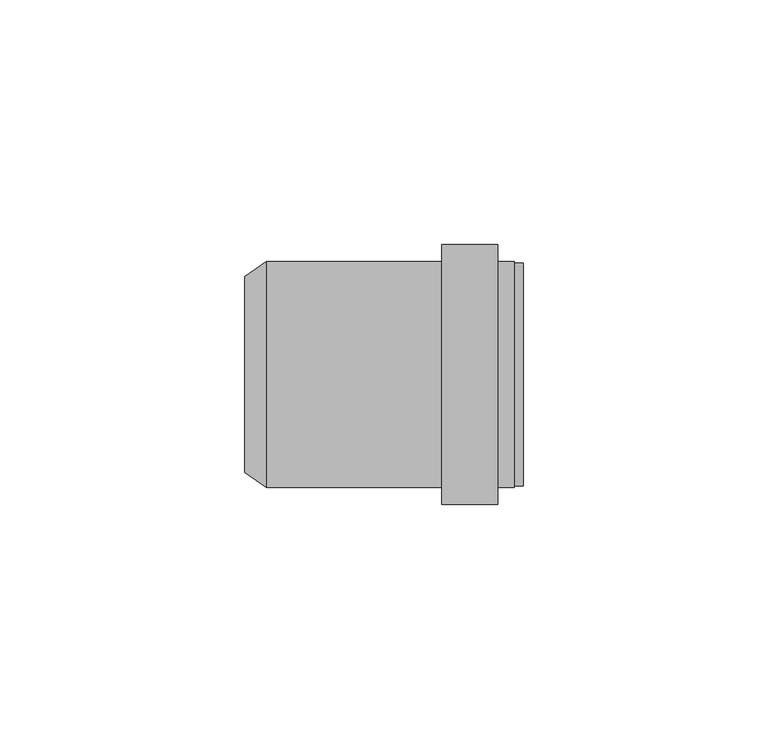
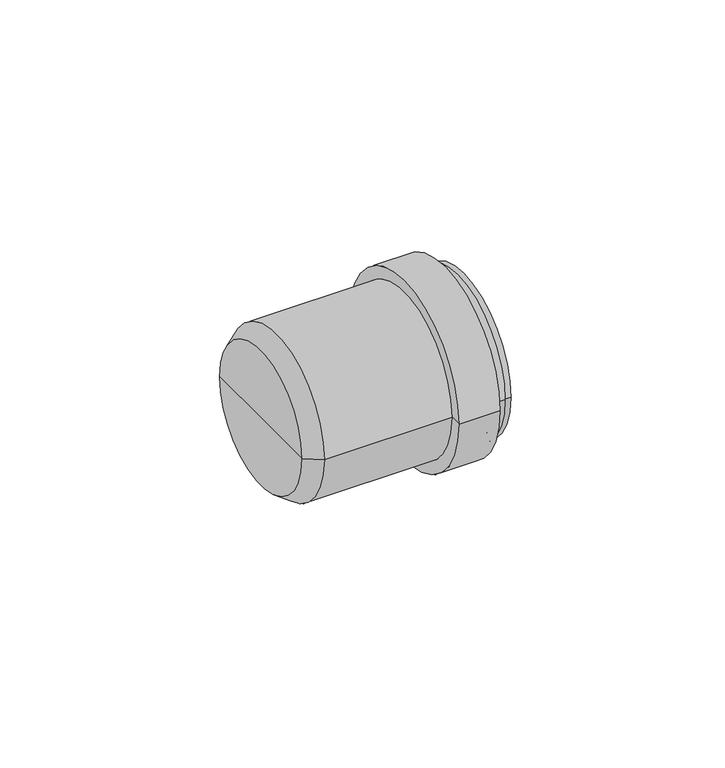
"""IFC4 building model written with IfcOpenShell, lengths in millimetres: pipe fitting geometry, pf_HTM_zatka : pf_HTM_zatka."""

import ifcopenshell
import ifcopenshell.guid

model = None  # the IFC model being written
_history = None  # IfcOwnerHistory: only IFC2X3 demands one
_inside = {}  # id of a spatial element -> (the spatial element, [elements in it])
_under = {}  # id of a project, library or spatial element -> (it, [spatial elements below it])
_declared = {}  # id of a project -> (the project, [libraries it declares])
_typed = {}  # id of a type object -> (the type object, [elements of that type])
_made_of = {}  # id of a material, layer set ... -> (it, [elements and type objects made of it])


def new_model(schema):
    """Start an empty IFC model of exactly this schema.

    Asked for "IFC4X3", IfcOpenShell would pick the latest addendum, in which some entities
    have other attributes; the version numbers below select the first issue.
    IFC2X3 requires an IfcOwnerHistory on every rooted entity: one is made here for all.
    """
    global model, _history
    if schema == "IFC4X3":
        model = ifcopenshell.file(schema_version=(4, 3, 0, 0))
    else:
        model = ifcopenshell.file(schema=schema)
    _inside.clear()
    _under.clear()
    _declared.clear()
    _typed.clear()
    _made_of.clear()
    _history = None
    if model.schema == "IFC2X3":
        org = make("IfcOrganization", Name="unknown")
        user = make(
            "IfcPersonAndOrganization",
            ThePerson=make("IfcPerson", FamilyName="unknown"),
            TheOrganization=org,
        )
        app = make(
            "IfcApplication",
            ApplicationDeveloper=org,
            Version="unknown",
            ApplicationFullName="unknown",
            ApplicationIdentifier="unknown",
        )
        _history = make(
            "IfcOwnerHistory",
            OwningUser=user,
            OwningApplication=app,
            ChangeAction="ADDED",
            CreationDate=0,
        )
    return model


def make(cls, **values):
    """One entity of the class cls with the attributes given. An attribute that is None is left unset."""
    return model.create_entity(
        cls, **{name: value for name, value in values.items() if value is not None}
    )


def rooted(cls, **values):
    """An entity with a GlobalId (a new one), such as an element, a storey or a relation."""
    return make(cls, GlobalId=ifcopenshell.guid.new(), OwnerHistory=_history, **values)


def si_unit(unit_type, name, prefix=None):
    """IfcSIUnit, for example si_unit("LENGTHUNIT", "METRE", prefix="MILLI")."""
    return make("IfcSIUnit", UnitType=unit_type, Prefix=prefix, Name=name)


def assignment(units):
    """IfcUnitAssignment: the units of a project."""
    return None if units is None else make("IfcUnitAssignment", Units=units)


def point(xyz):
    """IfcCartesianPoint."""
    return None if xyz is None else make("IfcCartesianPoint", Coordinates=xyz)


def direction(xyz):
    """IfcDirection."""
    return None if xyz is None else make("IfcDirection", DirectionRatios=xyz)


def frame(location, z_axis=None, x_axis=None):
    """IfcAxis2Placement3D, a coordinate frame: its origin and axes. An axis left out is left unset."""
    return make(
        "IfcAxis2Placement3D",
        Location=point(location),
        Axis=direction(z_axis),
        RefDirection=direction(x_axis),
    )


def origin():
    """The frame at (0, 0, 0) with its axes left unset."""
    return frame((0.0, 0.0, 0.0))


def place(relative_to, where):
    """IfcLocalPlacement: puts the frame where relative to a parent placement (None: the world)."""
    return make(
        "IfcLocalPlacement", PlacementRelTo=relative_to, RelativePlacement=where
    )


def context(
    kind, dimensions, precision=None, world=None, true_north=None, identifier=None
):
    """IfcGeometricRepresentationContext, for example the 3D "Model" context."""
    return make(
        "IfcGeometricRepresentationContext",
        ContextIdentifier=identifier,
        ContextType=kind,
        CoordinateSpaceDimension=dimensions,
        Precision=precision,
        WorldCoordinateSystem=world,
        TrueNorth=true_north,
    )


def project(units=None, contexts=None):
    """IfcProject with its units and contexts."""
    return rooted(
        "IfcProject",
        Name="project",
        RepresentationContexts=contexts,
        UnitsInContext=assignment(units),
    )


def spatial(cls, under=None, at=None, **own):
    """A site, building, storey or space (cls), placed at a placement, below another one or the project."""
    s = rooted(cls, ObjectPlacement=at, **own)
    if under is not None:
        _under.setdefault(under.id(), (under, []))[1].append(s)
    return s


def polyline(points):
    """IfcPolyline through the points."""
    return make("IfcPolyline", Points=[point(p) for p in points])


def circle_curve(where, radius):
    """IfcCircle in the frame where."""
    return make("IfcCircle", Position=where, Radius=radius)


def shape(context_of_items, identifier, shape_type, items):
    """IfcShapeRepresentation: the items that make up one representation, for example the "Body"."""
    return make(
        "IfcShapeRepresentation",
        ContextOfItems=context_of_items,
        RepresentationIdentifier=identifier,
        RepresentationType=shape_type,
        Items=items,
    )


def source(mapping_origin, context_of_items, identifier, shape_type, items):
    """IfcRepresentationMap: a shape defined once, which mapped items show again and again."""
    return make(
        "IfcRepresentationMap",
        MappingOrigin=mapping_origin,
        MappedRepresentation=shape(context_of_items, identifier, shape_type, items),
    )


def transform(
    local_origin,
    x_axis=None,
    y_axis=None,
    z_axis=None,
    scale=None,
    scale2=None,
    scale3=None,
    uniform=True,
):
    """IfcCartesianTransformationOperator3D, or its non-uniform kind. x_axis, y_axis, z_axis: its Axis1, 2, 3."""
    if uniform:
        return make(
            "IfcCartesianTransformationOperator3D",
            Axis1=direction(x_axis),
            Axis2=direction(y_axis),
            LocalOrigin=point(local_origin),
            Scale=scale,
            Axis3=direction(z_axis),
        )
    return make(
        "IfcCartesianTransformationOperator3DnonUniform",
        Axis1=direction(x_axis),
        Axis2=direction(y_axis),
        LocalOrigin=point(local_origin),
        Scale=scale,
        Axis3=direction(z_axis),
        Scale2=scale2,
        Scale3=scale3,
    )


def mapped(mapping_source, mapping_target):
    """IfcMappedItem: shows the shape of a source again, moved by a transform."""
    return make(
        "IfcMappedItem", MappingSource=mapping_source, MappingTarget=mapping_target
    )


def made_of(thing, what):
    """Note that an element or type object is made of a material, layer set ...; save() writes the relation."""
    if what is not None:
        _made_of.setdefault(what.id(), (what, []))[1].append(thing)
    return thing


def element(
    cls,
    number,
    at=None,
    inside=None,
    cuts=None,
    type_object=None,
    material=None,
    context=None,
    identifier="Body",
    shape_type=None,
    held_by="IfcProductDefinitionShape",
    body=None,
    shapes=None,
    **own,
):
    """One element of the class cls, such as IfcWall. Its Tag is "e" and its number.

    at: its placement. inside: the storey or other place that contains it. cuts: it is an
    opening in that element (IfcRelVoidsElement). A single representation is given by context,
    identifier, shape_type and body (its items); several are given by shapes. held_by: the class
    of the entity that holds the representations. save() writes the other relations.
    """
    e = rooted(cls, Tag="e%d" % number, ObjectPlacement=at, **own)
    if body is not None:
        shapes = [shape(context, identifier, shape_type, body)]
    if shapes is not None:
        e.Representation = make(held_by, Representations=shapes)
    if inside is not None:
        _inside.setdefault(inside.id(), (inside, []))[1].append(e)
    if cuts is not None:
        rooted(
            "IfcRelVoidsElement", RelatingBuildingElement=cuts, RelatedOpeningElement=e
        )
    if type_object is not None:
        _typed.setdefault(type_object.id(), (type_object, []))[1].append(e)
    return made_of(e, material)


def aggregate(whole, parts):
    """IfcRelAggregates: a whole, such as a stair, and the parts it consists of."""
    return rooted("IfcRelAggregates", RelatingObject=whole, RelatedObjects=parts)


def save(model, path):
    """Write the relations noted so far, then the file.

    IfcRelAggregates (storeys below a building ...), IfcRelContainedInSpatialStructure (elements
    in a storey), IfcRelDefinesByType, IfcRelAssociatesMaterial and IfcRelDeclares: one each for
    every whole, place, type object, material and project.
    """
    for whole, parts in _under.values():
        aggregate(whole, parts)
    for where, things in _inside.values():
        rooted(
            "IfcRelContainedInSpatialStructure",
            RelatedElements=things,
            RelatingStructure=where,
        )
    for kind, things in _typed.values():
        rooted("IfcRelDefinesByType", RelatedObjects=things, RelatingType=kind)
    for what, things in _made_of.values():
        rooted("IfcRelAssociatesMaterial", RelatedObjects=things, RelatingMaterial=what)
    for by, libraries in _declared.values():
        rooted("IfcRelDeclares", RelatingContext=by, RelatedDefinitions=libraries)
    model.write(path)


def plane_surface(at):
    """IfcPlane: the flat surface through the origin of the frame at, square to its z axis."""
    return make("IfcPlane", Position=at)


def cylinder_surface(at, radius):
    """IfcCylindricalSurface: all points at the distance radius from the z axis of the frame at."""
    return make("IfcCylindricalSurface", Position=at, Radius=radius)


def revolved_surface(curve, axis_point, axis_direction):
    """IfcSurfaceOfRevolution: the curve turned about the line through axis_point along axis_direction."""
    return make(
        "IfcSurfaceOfRevolution",
        SweptCurve=make("IfcArbitraryOpenProfileDef", ProfileType="CURVE", Curve=curve),
        AxisPosition=make("IfcAxis1Placement", Location=point(axis_point), Axis=direction(axis_direction)),
    )


def advanced_brep(points, edges, surfaces, faces):
    """IfcAdvancedBrep: a solid bounded by faces that lie on surfaces and meet in shared edges.

    An edge is (start, end): straight between two places in points (the first is 0);
    or (start, end, curve); or (start, end, curve, False) where it runs against its curve.
    A face is (place in surfaces, loops), or (place, loops, False) where it looks against
    its surface's normal. A loop lists edges by number (the first is 1), with a minus sign
    where the edge is run from its end to its start. The first loop is the outer one.
    """
    corners = [point(p) for p in points]
    vertices = [make("IfcVertexPoint", VertexGeometry=c) for c in corners]
    made = []
    for start, end, *more in edges:
        made.append(
            make(
                "IfcEdgeCurve",
                EdgeStart=vertices[start],
                EdgeEnd=vertices[end],
                EdgeGeometry=more[0] if more else make("IfcPolyline", Points=[corners[start], corners[end]]),
                SameSense=more[1] if len(more) > 1 else True,
            )
        )
    hull = []
    for where, loops, *sense in faces:
        bounds = []
        for j, loop in enumerate(loops):
            ring = [make("IfcOrientedEdge", EdgeElement=made[abs(k) - 1], Orientation=k > 0) for k in loop]
            bounds.append(
                make(
                    "IfcFaceOuterBound" if j == 0 else "IfcFaceBound",
                    Bound=make("IfcEdgeLoop", EdgeList=ring),
                    Orientation=True,
                )
            )
        hull.append(make("IfcAdvancedFace", Bounds=bounds, FaceSurface=surfaces[where], SameSense=sense[0] if sense else True))
    return make("IfcAdvancedBrep", Outer=make("IfcClosedShell", CfsFaces=hull))


def pipe_fitting_e86e1e86(model_context):
    return source(origin(), model_context, "Body", "AdvancedBrep", [
        advanced_brep(
        [(-55.0, -20.0, 0.0), (-55.0, 20.0, 0.0), (-50.6, 23.1, 0.0), (-50.6, -23.1, 0.0), (-55.0, 0.0, 0.0), (0.0, -23.1, 0.0), (0.0, 23.1, 0.0), (0.0, 0.0, 0.0), (-3.4, -23.1, 0.0), (-3.4, 23.1, 0.0), (-3.4, -26.5, 0.0), (-3.4, 26.5, 0.0), (-14.8, -26.5, 0.0), (-14.8, 26.5, 0.0), (-14.8, -23.1, 0.0), (-14.8, 23.1, 0.0)],
        [
            (0, 1, circle_curve(frame((-55.0, 0.0, 0.0), z_axis=(1.0, 0.0, 0.0), x_axis=(0.0, 1.0, 0.0)), 20.0)),
            (1, 2),
            (2, 3, circle_curve(frame((-50.6, 0.0, 0.0), z_axis=(-1.0, 0.0, 0.0), x_axis=(0.0, 1.0, 0.0)), 23.1)),
            (3, 0),
            (1, 0, circle_curve(frame((-55.0, 0.0, 0.0), z_axis=(1.0, 0.0, 0.0), x_axis=(0.0, 1.0, 0.0)), 20.0)),
            (3, 2, circle_curve(frame((-50.6, 0.0, 0.0), z_axis=(-1.0, 0.0, 0.0), x_axis=(0.0, 1.0, 0.0)), 23.1)),
            (4, 1),
            (0, 4),
            (5, 6, circle_curve(frame((0.0, 0.0, 0.0), z_axis=(1.0, 0.0, 0.0), x_axis=(0.0, 1.0, 0.0)), 23.1)),
            (6, 7),
            (7, 5),
            (6, 5, circle_curve(frame((0.0, 0.0, 0.0), z_axis=(1.0, 0.0, 0.0), x_axis=(0.0, 1.0, 0.0)), 23.1)),
            (8, 9, circle_curve(frame((-3.4, 0.0, 0.0), z_axis=(1.0, 0.0, 0.0), x_axis=(0.0, 1.0, 0.0)), 23.1)),
            (9, 6),
            (5, 8),
            (9, 8, circle_curve(frame((-3.4, 0.0, 0.0), z_axis=(1.0, 0.0, 0.0), x_axis=(0.0, 1.0, 0.0)), 23.1)),
            (10, 11, circle_curve(frame((-3.4, 0.0, 0.0), z_axis=(1.0, 0.0, 0.0), x_axis=(0.0, 1.0, 0.0)), 26.5)),
            (11, 9),
            (8, 10),
            (11, 10, circle_curve(frame((-3.4, 0.0, 0.0), z_axis=(1.0, 0.0, 0.0), x_axis=(0.0, 1.0, 0.0)), 26.5)),
            (12, 13, circle_curve(frame((-14.8, 0.0, 0.0), z_axis=(1.0, 0.0, 0.0), x_axis=(0.0, 1.0, 0.0)), 26.5)),
            (13, 11),
            (10, 12),
            (13, 12, circle_curve(frame((-14.8, 0.0, 0.0), z_axis=(1.0, 0.0, 0.0), x_axis=(0.0, 1.0, 0.0)), 26.5)),
            (14, 15, circle_curve(frame((-14.8, 0.0, 0.0), z_axis=(1.0, 0.0, 0.0), x_axis=(0.0, 1.0, 0.0)), 23.1)),
            (15, 13),
            (12, 14),
            (15, 14, circle_curve(frame((-14.8, 0.0, 0.0), z_axis=(1.0, 0.0, 0.0), x_axis=(0.0, 1.0, 0.0)), 23.1)),
            (2, 15),
            (14, 3),
        ],
        [
            revolved_surface(polyline([(-50.6, 23.1, 0.0), (-55.0, 20.0, 0.0)]), (-55.0, 0.0, 0.0), (-1.0, 0.0, 0.0)),
            plane_surface(frame((-55.0, 0.0, 0.0), z_axis=(-1.0, 0.0, 0.0), x_axis=(0.0, 1.0, 0.0))),
            plane_surface(frame((0.0, 0.0, 0.0), z_axis=(1.0, 0.0, 0.0), x_axis=(0.0, 1.0, 0.0))),
            cylinder_surface(frame((-55.0, 0.0, 0.0), z_axis=(-1.0, 0.0, 0.0), x_axis=(0.0, 1.0, 0.0)), 23.1),
            plane_surface(frame((-3.4, 0.0, 0.0), z_axis=(1.0, 0.0, 0.0), x_axis=(0.0, 1.0, 0.0))),
            cylinder_surface(frame((-55.0, 0.0, 0.0), z_axis=(-1.0, 0.0, 0.0), x_axis=(0.0, 1.0, 0.0)), 26.5),
            plane_surface(frame((-14.8, 0.0, 0.0), z_axis=(-1.0, 0.0, 0.0), x_axis=(0.0, 1.0, 0.0))),
        ],
        [
            (0, [[1, 2, 3, 4]]),
            (0, [[5, -4, 6, -2]]),
            (1, [[7, -1, 8]]),
            (1, [[-8, -5, -7]]),
            (2, [[9, 10, 11]]),
            (2, [[12, -11, -10]]),
            (3, [[13, 14, -9, 15]]),
            (3, [[16, -15, -12, -14]]),
            (4, [[17, 18, -13, 19]]),
            (4, [[20, -19, -16, -18]]),
            (5, [[21, 22, -17, 23]]),
            (5, [[24, -23, -20, -22]]),
            (6, [[25, 26, -21, 27]]),
            (6, [[28, -27, -24, -26]]),
            (3, [[-3, 29, -25, 30]]),
            (3, [[-6, -30, -28, -29]]),
        ],
    ),
        advanced_brep(
        [(-38.0, 0.0, 0.0), (-38.0, 20.0, 0.0), (-38.0, -20.0, 0.0), (1.8, -22.74, 0.0), (1.8, 22.74, 0.0), (1.8, 0.0, 0.0), (0.0, -22.74, 0.0), (0.0, 22.74, 0.0), (0.0, -20.94, 0.0), (0.0, 20.94, 0.0), (-34.0, -20.94, 0.0), (-34.0, 20.94, 0.0)],
        [
            (0, 1),
            (1, 2, circle_curve(frame((-38.0, 0.0, 0.0), z_axis=(-1.0, 0.0, 0.0), x_axis=(0.0, 1.0, 0.0)), 20.0)),
            (2, 0),
            (2, 1, circle_curve(frame((-38.0, 0.0, 0.0), z_axis=(-1.0, 0.0, 0.0), x_axis=(0.0, 1.0, 0.0)), 20.0)),
            (3, 4, circle_curve(frame((1.8, 0.0, 0.0), z_axis=(1.0, 0.0, 0.0), x_axis=(0.0, 1.0, 0.0)), 22.74)),
            (4, 5),
            (5, 3),
            (4, 3, circle_curve(frame((1.8, 0.0, 0.0), z_axis=(1.0, 0.0, 0.0), x_axis=(0.0, 1.0, 0.0)), 22.74)),
            (6, 7, circle_curve(frame((0.0, 0.0, 0.0), z_axis=(1.0, 0.0, 0.0), x_axis=(0.0, 1.0, 0.0)), 22.74)),
            (7, 4),
            (3, 6),
            (7, 6, circle_curve(frame((0.0, 0.0, 0.0), z_axis=(1.0, 0.0, 0.0), x_axis=(0.0, 1.0, 0.0)), 22.74)),
            (8, 9, circle_curve(frame((0.0, 0.0, 0.0), z_axis=(1.0, 0.0, 0.0), x_axis=(0.0, 1.0, 0.0)), 20.94)),
            (9, 7),
            (6, 8),
            (9, 8, circle_curve(frame((0.0, 0.0, 0.0), z_axis=(1.0, 0.0, 0.0), x_axis=(0.0, 1.0, 0.0)), 20.94)),
            (10, 11, circle_curve(frame((-34.0, 0.0, 0.0), z_axis=(1.0, 0.0, 0.0), x_axis=(0.0, 1.0, 0.0)), 20.94)),
            (11, 9),
            (8, 10),
            (11, 10, circle_curve(frame((-34.0, 0.0, 0.0), z_axis=(1.0, 0.0, 0.0), x_axis=(0.0, 1.0, 0.0)), 20.94)),
            (1, 11),
            (10, 2),
        ],
        [
            plane_surface(frame((-38.0, 0.0, 0.0), z_axis=(-1.0, 0.0, 0.0), x_axis=(0.0, 1.0, 0.0))),
            plane_surface(frame((1.8, 0.0, 0.0), z_axis=(1.0, 0.0, 0.0), x_axis=(0.0, 1.0, 0.0))),
            cylinder_surface(frame((-37.0241529, 0.0, 0.0), z_axis=(-1.0, 0.0, 0.0), x_axis=(0.0, 1.0, 0.0)), 22.74),
            plane_surface(frame((0.0, 0.0, 0.0), z_axis=(-1.0, 0.0, 0.0), x_axis=(0.0, 1.0, 0.0))),
            cylinder_surface(frame((-37.0241529, 0.0, 0.0), z_axis=(-1.0, 0.0, 0.0), x_axis=(0.0, 1.0, 0.0)), 20.94),
            revolved_surface(polyline([(-34.0, 20.94, 0.0), (-38.0, 20.0, 0.0)]), (-37.0241529, 0.0, 0.0), (-1.0, 0.0, 0.0)),
        ],
        [
            (0, [[1, 2, 3]]),
            (0, [[-3, 4, -1]]),
            (1, [[5, 6, 7]]),
            (1, [[8, -7, -6]]),
            (2, [[9, 10, -5, 11]]),
            (2, [[12, -11, -8, -10]]),
            (3, [[13, 14, -9, 15]]),
            (3, [[16, -15, -12, -14]]),
            (4, [[17, 18, -13, 19]]),
            (4, [[20, -19, -16, -18]]),
            (5, [[-2, 21, -17, 22]]),
            (5, [[-4, -22, -20, -21]]),
        ],
    ),
    ])


if __name__ == "__main__":
    model = new_model("IFC4")
    model_context = context("Model", 3, world=origin())
    ifc_project = project(units=[si_unit("LENGTHUNIT", "METRE", prefix="MILLI")], contexts=[model_context])
    site = spatial("IfcSite", under=ifc_project)
    building = spatial("IfcBuilding", under=site)
    placement = place(None, origin())
    pipe_fitting_shape = pipe_fitting_e86e1e86(model_context)
    element("IfcPipeFitting", 1, ObjectType="pf_HTM_zatka : pf_HTM_zatka", at=placement, inside=building, context=model_context, shape_type="MappedRepresentation", body=[
        mapped(pipe_fitting_shape, transform((0.0, 0.0, 0.0), x_axis=(1.0, 0.0, 0.0), y_axis=(0.0, 1.0, 0.0), z_axis=(0.0, 0.0, 1.0))),
    ])
    save(model, "model.ifc")
